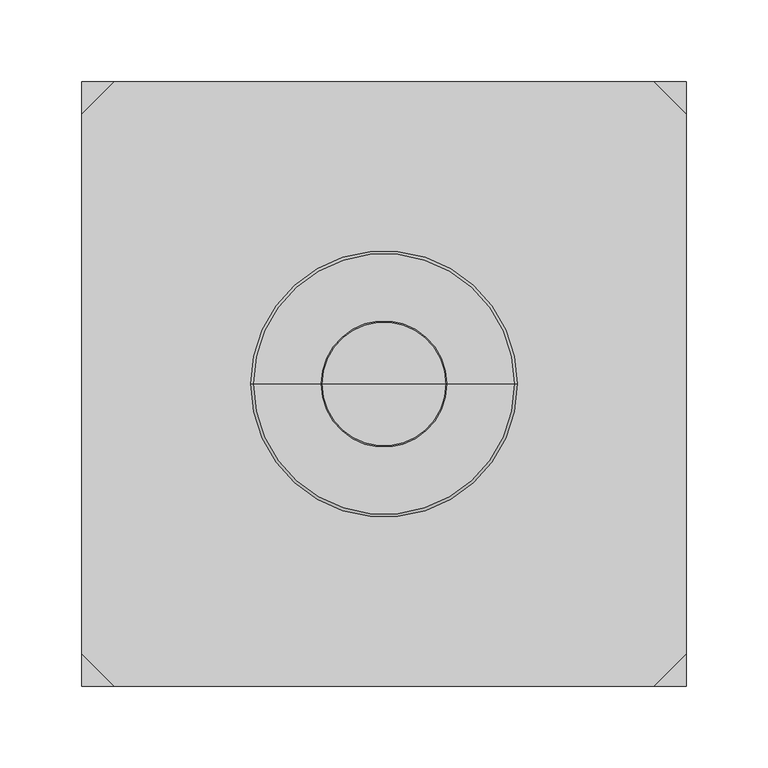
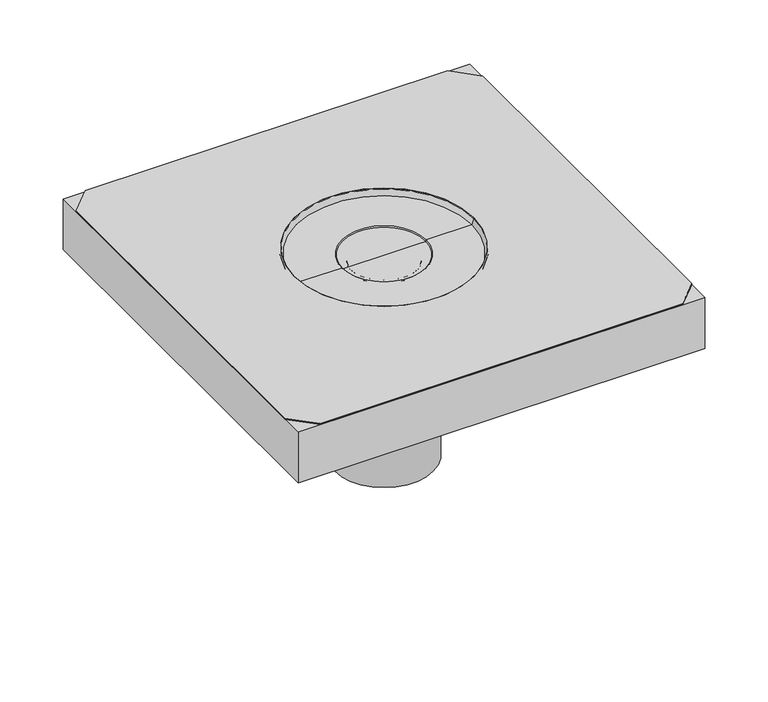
"""IFC4 building model written with IfcOpenShell, lengths in millimetres: sanitary terminal geometry, NLRS_52_PF_LB_Pluvia dampbarrière-aansluiting_geb : d90 - 25L/s."""

from ifc_helpers import new_model, si_unit, point, frame, origin, origin_2d, place, context, project, spatial, polyline, circle_curve, ellipse_curve, trimmed, segment, composite_curve, outline, extrude, source, transform, mapped, element, save
from ifc_brep_helpers import plane_surface, cylinder_surface, revolved_surface, advanced_brep


def sanitary_terminal_1737b481(model_context):
    return source(origin(), model_context, "Body", "SolidModel", [
        advanced_brep(
        [(-45.0, 0.0, -200.0), (45.0, 0.0, -200.0), (45.0, 0.0, -18.0), (-45.0, 0.0, -18.0), (-66.0, 0.0, -18.0), (66.0, 0.0, -18.0), (66.0, 0.0, -7.5), (-66.0, 0.0, -7.5), (0.0, 0.0, -7.5)],
        [
            (0, 1, circle_curve(frame((0.0, 0.0, -200.0), z_axis=(0.0, 0.0, -1.0), x_axis=(1.0, 0.0, 0.0)), 45.0)),
            (1, 0, circle_curve(frame((0.0, 0.0, -200.0), z_axis=(0.0, 0.0, -1.0), x_axis=(1.0, 0.0, 0.0)), 45.0)),
            (1, 2),
            (2, 3, circle_curve(frame((0.0, 0.0, -18.0), z_axis=(0.0, 0.0, -1.0), x_axis=(1.0, 0.0, 0.0)), 45.0)),
            (3, 0),
            (3, 2, circle_curve(frame((0.0, 0.0, -18.0), z_axis=(0.0, 0.0, -1.0), x_axis=(1.0, 0.0, 0.0)), 45.0)),
            (4, 5, circle_curve(frame((0.0, 0.0, -18.0), z_axis=(0.0, 0.0, -1.0), x_axis=(-1.0, 0.0, 0.0)), 66.0)),
            (5, 2),
            (3, 4),
            (5, 4, circle_curve(frame((0.0, 0.0, -18.0), z_axis=(0.0, 0.0, -1.0), x_axis=(-1.0, 0.0, 0.0)), 66.0)),
            (6, 7, circle_curve(frame((0.0, 0.0, -7.5), z_axis=(0.0, 0.0, 1.0), x_axis=(-1.0, 0.0, 0.0)), 66.0)),
            (7, 8),
            (8, 6),
            (7, 6, circle_curve(frame((0.0, 0.0, -7.5), z_axis=(0.0, 0.0, 1.0), x_axis=(-1.0, 0.0, 0.0)), 66.0)),
            (4, 7),
            (6, 5),
        ],
        [
            plane_surface(frame((45.0, 0.0, -200.0), z_axis=(0.0, 0.0, -1.0), x_axis=(0.0, -1.0, 0.0))),
            cylinder_surface(frame((0.0, 0.0, -200.0), z_axis=(0.0, 0.0, 1.0), x_axis=(1.0, 0.0, 0.0)), 45.0),
            plane_surface(frame((0.0, 0.0, -18.0), z_axis=(0.0, 0.0, -1.0), x_axis=(-1.0, 0.0, 0.0))),
            plane_surface(frame((0.0, 0.0, -7.5), z_axis=(0.0, 0.0, 1.0), x_axis=(-1.0, 0.0, 0.0))),
            cylinder_surface(frame((0.0, 0.0, 2.5), z_axis=(0.0, 0.0, -1.0), x_axis=(-1.0, 0.0, 0.0)), 66.0),
        ],
        [
            (0, [[1, 2]]),
            (1, [[-2, 3, 4, 5]]),
            (1, [[-1, -5, 6, -3]]),
            (2, [[7, 8, -6, 9]]),
            (2, [[10, -9, -4, -8]]),
            (3, [[11, 12, 13]]),
            (3, [[-12, 14, -13]]),
            (4, [[-7, 15, -11, 16]]),
            (4, [[-10, -16, -14, -15]]),
        ],
    ),
        extrude(outline(polyline([(-185.0, 165.0), (-165.0, 185.0), (165.0, 185.0), (185.0, 165.0), (185.0, -165.0), (165.0, -185.0), (-165.0, -185.0), (-185.0, -165.0), (-185.0, 165.0)]), holes=[composite_curve([segment(trimmed(circle_curve(origin_2d(), 81.4762521), [point((-81.4762521, 0.0))], [point((81.4762521, 0.0))], True, "CARTESIAN"), True, "CONTINUOUS"), segment(trimmed(circle_curve(origin_2d(), 81.4762521), [point((81.4762521, 0.0))], [point((-81.4762521, 0.0))], True, "CARTESIAN"), True, "CONTINUOUS")], self_intersect=False)]), frame((0.0, 0.0, -1.0), z_axis=(0.0, 0.0, 1.0), x_axis=(1.0, 0.0, 0.0)), (0.0, 0.0, 1.0), 1.0),
        advanced_brep(
        [(81.003593, 0.0, -7.5), (-81.0, 0.0, -7.5), (-82.7416698, 0.0, -1.0), (82.7452627, 0.0, -1.0), (38.8724346, 0.0, -7.5), (-38.8688416, 0.0, -7.5), (79.7611141, 0.0, -6.4143914), (-79.7575211, 0.0, -6.4143914), (-38.634088, 0.0, -6.4143914), (38.637681, 0.0, -6.4143914), (81.479845, 0.0, 0.0), (-81.4762521, 0.0, 0.0), (36.3125514, 0.0, -9.5), (-36.3089584, 0.0, -9.5), (33.2965593, 0.0, -9.5), (-33.2929663, 0.0, -9.5), (30.2728829, 0.0, -12.5236764), (-30.2692899, 0.0, -12.5236764), (29.2728829, 0.0, -12.5236764), (-29.2692899, 0.0, -12.5236764), (33.2965593, 0.0, -8.5), (-33.2929663, 0.0, -8.5), (35.9682238, 0.0, -8.5), (-35.9646308, 0.0, -8.5), (81.479845, 0.0, -1.0), (-81.4762521, 0.0, -1.0)],
        [
            (0, 1, circle_curve(frame((0.0017965, 0.0, -7.5), z_axis=(0.0, 0.0, 1.0), x_axis=(-1.0, 0.0, 0.0)), 81.0017965)),
            (1, 2),
            (2, 3, circle_curve(frame((0.0017965, 0.0, -1.0), z_axis=(0.0, 0.0, -1.0), x_axis=(-1.0, 0.0, 0.0)), 82.7434662)),
            (3, 0),
            (1, 0, circle_curve(frame((0.0017965, 0.0, -7.5), z_axis=(0.0, 0.0, 1.0), x_axis=(-1.0, 0.0, 0.0)), 81.0017965)),
            (3, 2, circle_curve(frame((0.0017965, 0.0, -1.0), z_axis=(0.0, 0.0, -1.0), x_axis=(-1.0, 0.0, 0.0)), 82.7434662)),
            (4, 5, circle_curve(frame((0.0017965, 0.0, -7.5), z_axis=(0.0, 0.0, 1.0), x_axis=(-1.0, 0.0, 0.0)), 38.8706381)),
            (5, 1),
            (0, 4),
            (5, 4, circle_curve(frame((0.0017965, 0.0, -7.5), z_axis=(0.0, 0.0, 1.0), x_axis=(-1.0, 0.0, 0.0)), 38.8706381)),
            (6, 7, circle_curve(frame((0.0017965, 0.0, -6.4143914), z_axis=(0.0, 0.0, 1.0), x_axis=(-1.0, 0.0, 0.0)), 79.7593176)),
            (7, 8),
            (8, 9, circle_curve(frame((0.0017965, 0.0, -6.4143914), z_axis=(0.0, 0.0, -1.0), x_axis=(-1.0, 0.0, 0.0)), 38.6358845)),
            (9, 6),
            (7, 6, circle_curve(frame((0.0017965, 0.0, -6.4143914), z_axis=(0.0, 0.0, 1.0), x_axis=(-1.0, 0.0, 0.0)), 79.7593176)),
            (9, 8, circle_curve(frame((0.0017965, 0.0, -6.4143914), z_axis=(0.0, 0.0, -1.0), x_axis=(-1.0, 0.0, 0.0)), 38.6358845)),
            (10, 11, circle_curve(frame((0.0017965, 0.0, 0.0), z_axis=(0.0, 0.0, 1.0), x_axis=(-1.0, 0.0, 0.0)), 81.4780486)),
            (11, 7),
            (6, 10),
            (11, 10, circle_curve(frame((0.0017965, 0.0, 0.0), z_axis=(0.0, 0.0, 1.0), x_axis=(-1.0, 0.0, 0.0)), 81.4780486)),
            (12, 13, circle_curve(frame((0.0017965, 0.0, -9.5), z_axis=(0.0, 0.0, 1.0), x_axis=(-1.0, 0.0, 0.0)), 36.3107549)),
            (13, 5),
            (4, 12),
            (13, 12, circle_curve(frame((0.0017965, 0.0, -9.5), z_axis=(0.0, 0.0, 1.0), x_axis=(-1.0, 0.0, 0.0)), 36.3107549)),
            (14, 15, circle_curve(frame((0.0017965, 0.0, -9.5), z_axis=(0.0, 0.0, 1.0), x_axis=(-1.0, 0.0, 0.0)), 33.2947628)),
            (15, 13),
            (12, 14),
            (15, 14, circle_curve(frame((0.0017965, 0.0, -9.5), z_axis=(0.0, 0.0, 1.0), x_axis=(-1.0, 0.0, 0.0)), 33.2947628)),
            (16, 17, circle_curve(frame((0.0017965, 0.0, -12.5236764), z_axis=(0.0, 0.0, 1.0), x_axis=(-1.0, 0.0, 0.0)), 30.2710864)),
            (17, 15, circle_curve(frame((-33.2929663, 0.0, -12.5236764), z_axis=(0.0, -1.0, 0.0), x_axis=(1.0, 0.0, 0.0)), 3.0236764)),
            (14, 16, circle_curve(frame((33.2965593, 0.0, -12.5236764), z_axis=(0.0, -1.0, 0.0), x_axis=(-1.0, 0.0, 0.0)), 3.0236764)),
            (17, 16, circle_curve(frame((0.0017965, 0.0, -12.5236764), z_axis=(0.0, 0.0, 1.0), x_axis=(-1.0, 0.0, 0.0)), 30.2710864)),
            (18, 19, circle_curve(frame((0.0017965, 0.0, -12.5236764), z_axis=(0.0, 0.0, 1.0), x_axis=(-1.0, 0.0, 0.0)), 29.2710864)),
            (19, 17),
            (16, 18),
            (19, 18, circle_curve(frame((0.0017965, 0.0, -12.5236764), z_axis=(0.0, 0.0, 1.0), x_axis=(-1.0, 0.0, 0.0)), 29.2710864)),
            (20, 21, circle_curve(frame((0.0017965, 0.0, -8.5), z_axis=(0.0, 0.0, 1.0), x_axis=(-1.0, 0.0, 0.0)), 33.2947628)),
            (21, 19, circle_curve(frame((-33.2929663, 0.0, -12.5236764), z_axis=(0.0, 1.0, 0.0), x_axis=(1.0, 0.0, 0.0)), 4.0236764)),
            (18, 20, circle_curve(frame((33.2965593, 0.0, -12.5236764), z_axis=(0.0, 1.0, 0.0), x_axis=(-1.0, 0.0, 0.0)), 4.0236764)),
            (21, 20, circle_curve(frame((0.0017965, 0.0, -8.5), z_axis=(0.0, 0.0, 1.0), x_axis=(-1.0, 0.0, 0.0)), 33.2947628)),
            (22, 23, circle_curve(frame((0.0017965, 0.0, -8.5), z_axis=(0.0, 0.0, 1.0), x_axis=(-1.0, 0.0, 0.0)), 35.9664273)),
            (23, 21),
            (20, 22),
            (23, 22, circle_curve(frame((0.0017965, 0.0, -8.5), z_axis=(0.0, 0.0, 1.0), x_axis=(-1.0, 0.0, 0.0)), 35.9664273)),
            (8, 23),
            (22, 9),
            (24, 25, circle_curve(frame((0.0017965, 0.0, -1.0), z_axis=(0.0, 0.0, 1.0), x_axis=(-1.0, 0.0, 0.0)), 81.4780486)),
            (25, 11),
            (10, 24),
            (25, 24, circle_curve(frame((0.0017965, 0.0, -1.0), z_axis=(0.0, 0.0, 1.0), x_axis=(-1.0, 0.0, 0.0)), 81.4780486)),
            (2, 25),
            (24, 3),
        ],
        [
            revolved_surface(polyline([(-82.7416698, 0.0, -1.0), (-81.0, 0.0, -7.5)]), (0.0017965, 0.0, -6.4143914), (0.0, 0.0, -1.0)),
            plane_surface(frame((0.0017965, 0.0, -7.5), z_axis=(0.0, 0.0, -1.0), x_axis=(-1.0, 0.0, 0.0))),
            plane_surface(frame((0.0017965, 0.0, -6.4143914), z_axis=(0.0, 0.0, 1.0), x_axis=(-1.0, 0.0, 0.0))),
            revolved_surface(polyline([(-79.7575211, 0.0, -6.4143914), (-81.4762521, 0.0, 0.0)]), (0.0017965, 0.0, -6.4143914), (0.0, 0.0, -1.0)),
            revolved_surface(polyline([(-38.8688416, 0.0, -7.5), (-36.3089584, 0.0, -9.5)]), (0.0017965, 0.0, -6.4143914), (0.0, 0.0, -1.0)),
            plane_surface(frame((0.0017965, 0.0, -9.5), z_axis=(0.0, 0.0, -1.0), x_axis=(-1.0, 0.0, 0.0))),
            revolved_surface(trimmed(ellipse_curve(frame((-33.2929663, 0.0, -12.5236764), z_axis=(0.0, 1.0, 0.0), x_axis=(1.0, 0.0, 0.0)), 3.0236764, 3.0236764), [point((-33.2929663, 0.0, -9.5))], [point((-30.2692899, 0.0, -12.5236764))], True, "CARTESIAN"), (0.0017965, 0.0, -6.4143914), (0.0, 0.0, -1.0)),
            plane_surface(frame((0.0017965, 0.0, -12.5236764), z_axis=(0.0, 0.0, -1.0), x_axis=(-1.0, 0.0, 0.0))),
            revolved_surface(trimmed(ellipse_curve(frame((-33.2929663, 0.0, -12.5236764), z_axis=(0.0, -1.0, 0.0), x_axis=(1.0, 0.0, 0.0)), 4.0236764, 4.0236764), [point((-29.2692899, 0.0, -12.5236764))], [point((-33.2929663, 0.0, -8.5))], True, "CARTESIAN"), (0.0017965, 0.0, -6.4143914), (0.0, 0.0, -1.0)),
            plane_surface(frame((0.0017965, 0.0, -8.5), z_axis=(0.0, 0.0, 1.0), x_axis=(-1.0, 0.0, 0.0))),
            revolved_surface(polyline([(-35.9646308, 0.0, -8.5), (-38.634088, 0.0, -6.4143914)]), (0.0017965, 0.0, -6.4143914), (0.0, 0.0, -1.0)),
            cylinder_surface(frame((0.0017965, 0.0, -6.4143914), z_axis=(0.0, 0.0, -1.0), x_axis=(-1.0, 0.0, 0.0)), 81.4780486),
            plane_surface(frame((0.0017965, 0.0, -1.0), z_axis=(0.0, 0.0, 1.0), x_axis=(-1.0, 0.0, 0.0))),
        ],
        [
            (0, [[1, 2, 3, 4]]),
            (0, [[5, -4, 6, -2]]),
            (1, [[7, 8, -1, 9]]),
            (1, [[10, -9, -5, -8]]),
            (2, [[11, 12, 13, 14]]),
            (2, [[15, -14, 16, -12]]),
            (3, [[17, 18, -11, 19]]),
            (3, [[20, -19, -15, -18]]),
            (4, [[21, 22, -7, 23]]),
            (4, [[24, -23, -10, -22]]),
            (5, [[25, 26, -21, 27]]),
            (5, [[28, -27, -24, -26]]),
            (6, [[29, 30, -25, 31]]),
            (6, [[32, -31, -28, -30]]),
            (7, [[33, 34, -29, 35]]),
            (7, [[36, -35, -32, -34]]),
            (8, [[37, 38, -33, 39]]),
            (8, [[40, -39, -36, -38]]),
            (9, [[41, 42, -37, 43]]),
            (9, [[44, -43, -40, -42]]),
            (10, [[-13, 45, -41, 46]]),
            (10, [[-16, -46, -44, -45]]),
            (11, [[47, 48, -17, 49]]),
            (11, [[50, -49, -20, -48]]),
            (12, [[-3, 51, -47, 52]]),
            (12, [[-6, -52, -50, -51]]),
        ],
    ),
        advanced_brep(
        [(185.0, 185.0, -1.0), (-185.0, 185.0, -1.0), (-185.0, -185.0, -1.0), (185.0, -185.0, -1.0), (-82.7416698, 0.0, -1.0), (82.7416698, 0.0, -1.0), (185.0, 185.0, -50.0), (185.0, -185.0, -50.0), (-185.0, -185.0, -50.0), (-185.0, 185.0, -50.0), (45.0, 0.0, -50.0), (-45.0, 0.0, -50.0), (66.0, 0.0, -7.5), (81.0, 0.0, -7.5), (-81.0, 0.0, -7.5), (-66.0, 0.0, -7.5), (-66.0, 0.0, -18.0), (66.0, 0.0, -18.0), (-45.0, 0.0, -18.0), (45.0, 0.0, -18.0)],
        [
            (0, 1),
            (1, 2),
            (2, 3),
            (3, 0),
            (4, 5, circle_curve(frame((0.0, 0.0, -1.0), z_axis=(0.0, 0.0, -1.0), x_axis=(-1.0, 0.0, 0.0)), 82.7416698)),
            (5, 4, circle_curve(frame((0.0, 0.0, -1.0), z_axis=(0.0, 0.0, -1.0), x_axis=(-1.0, 0.0, 0.0)), 82.7416698)),
            (6, 7),
            (7, 8),
            (8, 9),
            (9, 6),
            (10, 11, circle_curve(frame((0.0, 0.0, -50.0), z_axis=(0.0, 0.0, 1.0), x_axis=(-1.0, 0.0, 0.0)), 45.0)),
            (11, 10, circle_curve(frame((0.0, 0.0, -50.0), z_axis=(0.0, 0.0, 1.0), x_axis=(-1.0, 0.0, 0.0)), 45.0)),
            (0, 6),
            (9, 1),
            (8, 2),
            (7, 3),
            (12, 13),
            (13, 14, circle_curve(frame((0.0, 0.0, -7.5), z_axis=(0.0, 0.0, 1.0), x_axis=(-1.0, 0.0, 0.0)), 81.0)),
            (14, 15),
            (15, 12, circle_curve(frame((0.0, 0.0, -7.5), z_axis=(0.0, 0.0, -1.0), x_axis=(-1.0, 0.0, 0.0)), 66.0)),
            (12, 15, circle_curve(frame((0.0, 0.0, -7.5), z_axis=(0.0, 0.0, -1.0), x_axis=(-1.0, 0.0, 0.0)), 66.0)),
            (14, 13, circle_curve(frame((0.0, 0.0, -7.5), z_axis=(0.0, 0.0, 1.0), x_axis=(-1.0, 0.0, 0.0)), 81.0)),
            (15, 16),
            (16, 17, circle_curve(frame((0.0, 0.0, -18.0), z_axis=(0.0, 0.0, -1.0), x_axis=(-1.0, 0.0, 0.0)), 66.0)),
            (17, 12),
            (17, 16, circle_curve(frame((0.0, 0.0, -18.0), z_axis=(0.0, 0.0, -1.0), x_axis=(-1.0, 0.0, 0.0)), 66.0)),
            (16, 18),
            (18, 19, circle_curve(frame((0.0, 0.0, -18.0), z_axis=(0.0, 0.0, -1.0), x_axis=(-1.0, 0.0, 0.0)), 45.0)),
            (19, 17),
            (19, 18, circle_curve(frame((0.0, 0.0, -18.0), z_axis=(0.0, 0.0, -1.0), x_axis=(-1.0, 0.0, 0.0)), 45.0)),
            (18, 11),
            (10, 19),
            (13, 5),
            (4, 14),
        ],
        [
            plane_surface(frame((-185.0, 185.0, -1.0), z_axis=(0.0, 0.0, 1.0), x_axis=(-1.0, 0.0, 0.0))),
            plane_surface(frame((-185.0, 185.0, -50.0), z_axis=(0.0, 0.0, -1.0), x_axis=(1.0, 0.0, 0.0))),
            plane_surface(frame((185.0, 185.0, -1.0), z_axis=(0.0, 1.0, 0.0), x_axis=(0.0, 0.0, -1.0))),
            plane_surface(frame((-185.0, 185.0, -1.0), z_axis=(-1.0, 0.0, 0.0), x_axis=(0.0, 0.0, -1.0))),
            plane_surface(frame((-185.0, -185.0, -1.0), z_axis=(0.0, -1.0, 0.0), x_axis=(0.0, 0.0, -1.0))),
            plane_surface(frame((185.0, -185.0, -1.0), z_axis=(1.0, 0.0, 0.0), x_axis=(0.0, 0.0, -1.0))),
            plane_surface(frame((0.0, 0.0, -7.5), z_axis=(0.0, 0.0, 1.0), x_axis=(-1.0, 0.0, 0.0))),
            revolved_surface(polyline([(-66.0, 0.0, -18.0), (-66.0, 0.0, -7.5)]), (0.0, 0.0, 4.0), (0.0, 0.0, -1.0)),
            plane_surface(frame((0.0, 0.0, -18.0), z_axis=(0.0, 0.0, 1.0), x_axis=(-1.0, 0.0, 0.0))),
            revolved_surface(polyline([(-45.0, 0.0, -50.0), (-45.0, 0.0, -18.0)]), (0.0, 0.0, 4.0), (0.0, 0.0, -1.0)),
            revolved_surface(polyline([(-81.0, 0.0, -7.5), (-82.7416698, 0.0, -1.0)]), (0.0, 0.0, 4.0), (0.0, 0.0, -1.0)),
        ],
        [
            (0, [[1, 2, 3, 4], [5, 6]]),
            (1, [[7, 8, 9, 10], [11, 12]]),
            (2, [[-1, 13, -10, 14]]),
            (3, [[-2, -14, -9, 15]]),
            (4, [[-3, -15, -8, 16]]),
            (5, [[-4, -16, -7, -13]]),
            (6, [[17, 18, 19, 20]]),
            (6, [[-17, 21, -19, 22]]),
            (7, [[-20, 23, 24, 25]]),
            (7, [[-21, -25, 26, -23]]),
            (8, [[-24, 27, 28, 29]]),
            (8, [[-26, -29, 30, -27]]),
            (9, [[-28, 31, -11, 32]]),
            (9, [[-30, -32, -12, -31]]),
            (10, [[-18, 33, -5, 34]]),
            (10, [[-22, -34, -6, -33]]),
        ],
    ),
    ])


if __name__ == "__main__":
    model = new_model("IFC4")
    model_context = context("Model", 3, world=origin())
    ifc_project = project(units=[si_unit("LENGTHUNIT", "METRE", prefix="MILLI")], contexts=[model_context])
    site = spatial("IfcSite", under=ifc_project)
    building = spatial("IfcBuilding", under=site)
    placement = place(None, origin())
    sanitary_terminal_shape = sanitary_terminal_1737b481(model_context)
    element("IfcSanitaryTerminal", 1, ObjectType="NLRS_52_PF_LB_Pluvia dampbarrière-aansluiting_geb : d90 - 25L/s", at=placement, inside=building, context=model_context, shape_type="MappedRepresentation", body=[
        mapped(sanitary_terminal_shape, transform((0.0, 0.0, 0.0), x_axis=(1.0, 0.0, 0.0), y_axis=(0.0, 1.0, 0.0), z_axis=(0.0, 0.0, 1.0))),
    ])
    save(model, "model.ifc")
